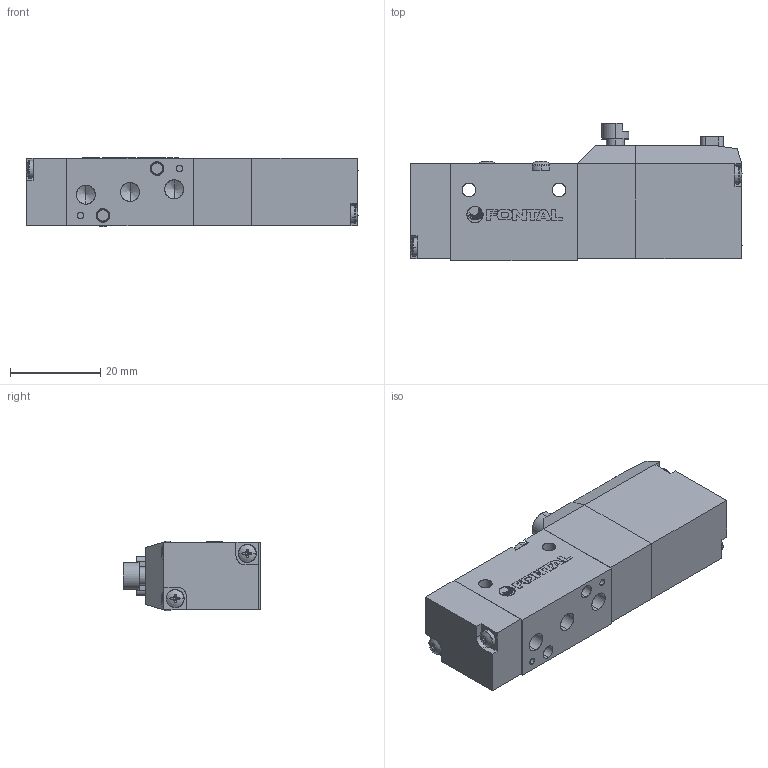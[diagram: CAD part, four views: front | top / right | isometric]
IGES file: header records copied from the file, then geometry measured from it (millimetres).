
Start section: SolidWorks IGES file using analytic representation for surfaces
Global section: file name: D:\Custom\3D繪製\PC\PCL5\RCL245#-M5-#-L-#.IGS,1; native system: 5HSolidWorks 2014; preprocessor: SolidWorks 2014; author: Chieh_Lu; date: 150916.143029; units: millimetre
Bounding box: 73.64 x 30.5 x 15.4 mm (x, y, z)
Surface area: 11274.2 mm2 (no closed solid volume)
Topology: 0 solids, 0 shells, 479 faces, 4384 edges, 4362 vertices
Faces by surface type: bspline 294, revolution 185
